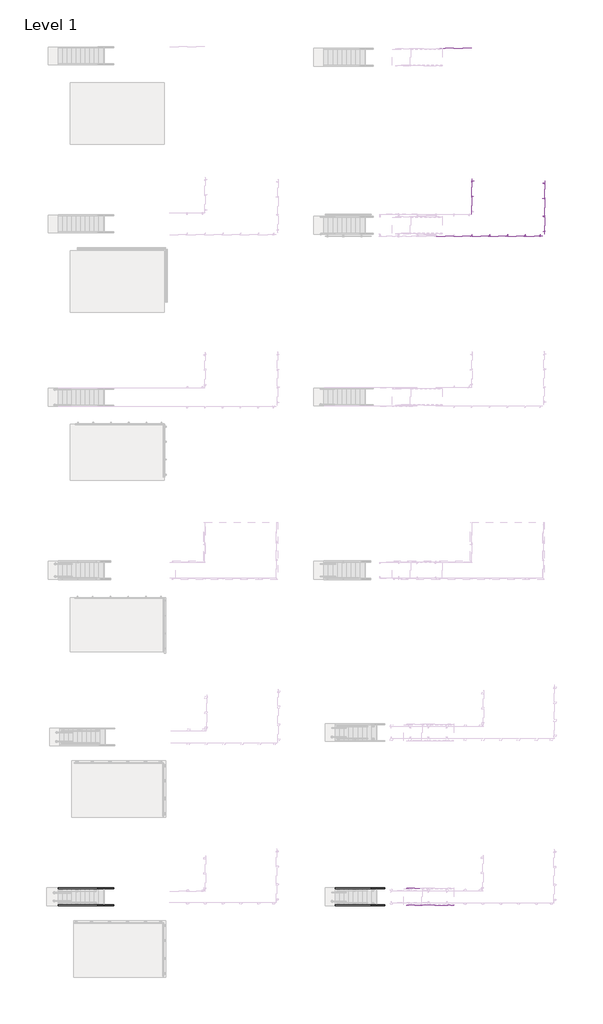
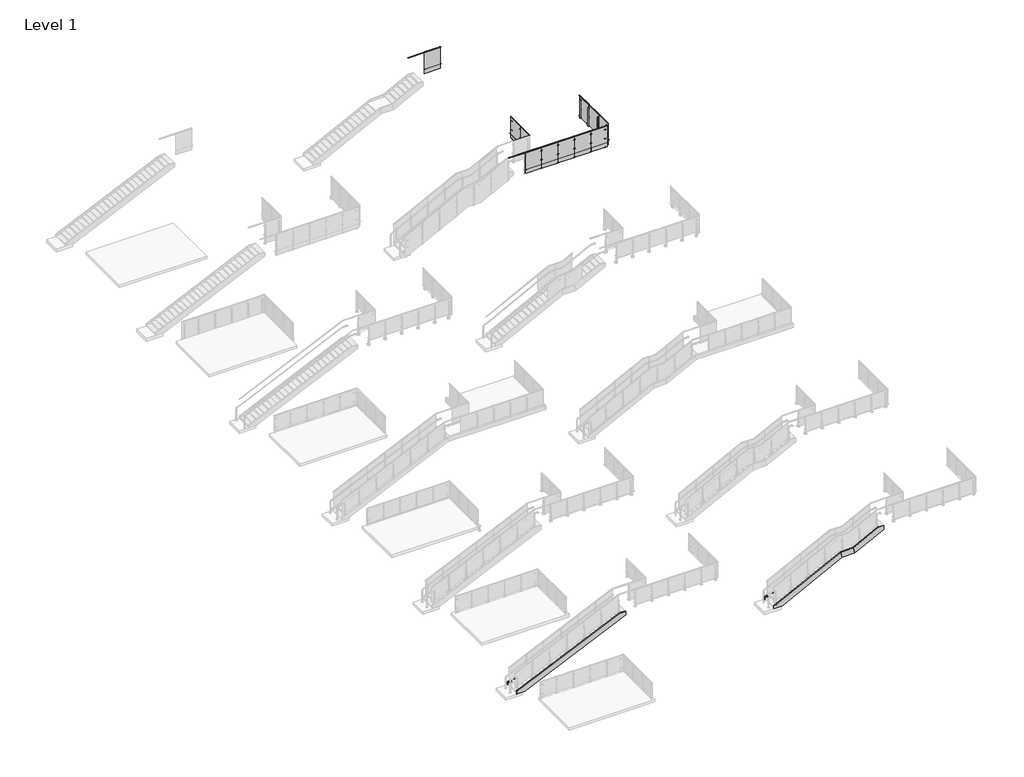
# One storey, part 36 of 37: 7 members, 4 proxies, 4 railings.
"""IFC4 building model written with IfcOpenShell, lengths in millimetres."""

from ifc_helpers import new_model, si_unit, point, frame, frame_2d, origin, place, context, project, spatial, polyline, circle_curve, trimmed, segment, composite_curve, outline, extrude, faceted_brep, transform, mapped, element, save
from components import baluster_end_post_viva_solo_top_mount_5ac118a2, baluster_end_post_viva_solo_top_mount_22cecde8

model = new_model("IFC4")

# Units and contexts
model_context = context("Model", 3, world=origin())
ifc_project = project(units=[si_unit("LENGTHUNIT", "METRE", prefix="MILLI")], contexts=[model_context])

# Site, building, storey
site = spatial("IfcSite", under=ifc_project)
building = spatial("IfcBuilding", under=site)
storey = spatial("IfcBuildingStorey", under=building, Name="Level 1", Elevation=0.0)

# Proxies
placement = place(None, origin())
baluster_end_post_viva_solo_top_mount_shape = baluster_end_post_viva_solo_top_mount_5ac118a2(model_context)
element("IfcBuildingElementProxy", 1, Name="Baluster-End-Post-VIVA-SOLO-Top Mount : ANCHORED TO CONCRETE_FASCIA A1 MOUNT FOLD_STRAIGHT", ObjectType="Baluster-End-Post-VIVA-SOLO-Top Mount : ANCHORED TO CONCRETE_FASCIA A1 MOUNT FOLD_STRAIGHT", at=placement, inside=storey, context=model_context, shape_type="MappedRepresentation", body=[
    mapped(baluster_end_post_viva_solo_top_mount_shape, transform((13879.6346922, 32455.5933835, 3047.492), x_axis=(-1.0, 0.0, 0.0), y_axis=(0.0, -1.0, 0.0), z_axis=(0.0, 0.0, 1.0))),
])
element("IfcBuildingElementProxy", 2, Name="Baluster-End-Post-VIVA-SOLO-Top Mount : ANCHORED TO CONCRETE_FASCIA A1 MOUNT FOLD_STRAIGHT", ObjectType="Baluster-End-Post-VIVA-SOLO-Top Mount : ANCHORED TO CONCRETE_FASCIA A1 MOUNT FOLD_STRAIGHT", at=placement, inside=storey, context=model_context, shape_type="MappedRepresentation", body=[
    mapped(baluster_end_post_viva_solo_top_mount_shape, transform((14047.6429922, 35676.3177537, 3047.492), x_axis=(0.0, -1.0, 0.0), y_axis=(1.0, 0.0, 0.0), z_axis=(0.0, 0.0, 1.0))),
])
baluster_end_post_viva_solo_top_mount_2_shape = baluster_end_post_viva_solo_top_mount_22cecde8(model_context)
element("IfcBuildingElementProxy", 3, Name="Baluster-End-Post-VIVA-SOLO-Top Mount : ANCHORED TO CONCRETE_FASCIA A1 MOUNT FOLD_STRAIGHT", ObjectType="Baluster-End-Post-VIVA-SOLO-Top Mount : ANCHORED TO CONCRETE_FASCIA A1 MOUNT FOLD_STRAIGHT", at=placement, inside=storey, context=model_context, shape_type="MappedRepresentation", body=[
    mapped(baluster_end_post_viva_solo_top_mount_2_shape, transform((9766.8486767, 35804.1570581, 3047.492), x_axis=(0.0, 1.0, 0.0), y_axis=(-1.0, 0.0, 0.0), z_axis=(0.0, 0.0, 1.0))),
])
element("IfcBuildingElementProxy", 4, Name="Baluster-End-Post-VIVA-SOLO-Top Mount : ANCHORED TO CONCRETE_FASCIA A1 MOUNT FOLD_STRAIGHT", ObjectType="Baluster-End-Post-VIVA-SOLO-Top Mount : ANCHORED TO CONCRETE_FASCIA A1 MOUNT FOLD_STRAIGHT", at=placement, inside=storey, context=model_context, shape_type="MappedRepresentation", body=[
    mapped(baluster_end_post_viva_solo_top_mount_2_shape, transform((14047.6429922, 32628.3177537, 3047.492), x_axis=(0.0, -1.0, 0.0), y_axis=(1.0, 0.0, 0.0), z_axis=(0.0, 0.0, 1.0))),
])

# Members
element("IfcMember", 5, ObjectType="Stringer - Paint - 2\" Width", at=placement, inside=storey, context=model_context, shape_type="SweptSolid", body=[
    extrude(outline(polyline([(171.9353423, -13801.737319), (0.0, -13801.737319), (0.0, -13290.0940239), (2815.3467396, -7098.677319), (3048.0, -7098.677319), (3048.0, -7476.7917927), (171.9353423, -13801.737319)])), frame((0.0, -4784.1653686, 0.0), z_axis=(0.0, 1.0, 0.0), x_axis=(0.0, 0.0, 1.0)), (0.0, 0.0, 1.0), 50.8),
])
element("IfcMember", 6, ObjectType="Stringer - Paint - 2\" Width", at=placement, inside=storey, context=model_context, shape_type="SweptSolid", body=[
    extrude(outline(polyline([(171.9353423, -13801.737319), (0.0, -13801.737319), (0.0, -13290.0940239), (2815.3467396, -7098.677319), (3048.0, -7098.677319), (3048.0, -7476.7917927), (171.9353423, -13801.737319)])), frame((0.0, -5749.3653686, 0.0), z_axis=(0.0, 1.0, 0.0), x_axis=(0.0, 0.0, 1.0)), (0.0, 0.0, 1.0), 50.8),
])
element("IfcMember", 7, ObjectType="Stringer - Paint - 2\" Width", at=placement, inside=storey, context=model_context, shape_type="SweptSolid", body=[
    extrude(outline(polyline([(175.2989155, 2021.7373344), (0.0, 2021.7373344), (0.0, 2489.2459285), (1891.7478261, 6205.7421785), (2260.0478261, 6117.4002983), (175.2989155, 2021.7373344)])), frame((0.0, -4784.1653686, 0.0), z_axis=(0.0, 1.0, 0.0), x_axis=(0.0, 0.0, 1.0)), (0.0, 0.0, 1.0), 50.8),
])
element("IfcMember", 8, ObjectType="Stringer - Paint - 2\" Width", at=placement, inside=storey, context=model_context, shape_type="SweptSolid", body=[
    extrude(outline(polyline([(175.2989155, 2021.7373344), (0.0, 2021.7373344), (0.0, 2489.2459285), (1891.7478261, 6205.7421785), (2260.0478261, 6117.4002983), (175.2989155, 2021.7373344)])), frame((0.0, -5749.3653686, 0.0), z_axis=(0.0, 1.0, 0.0), x_axis=(0.0, 0.0, 1.0)), (0.0, 0.0, 1.0), 50.8),
])
element("IfcMember", 9, ObjectType="Stringer - Paint - 2\" Width", at=placement, inside=storey, context=model_context, shape_type="SweptSolid", body=[
    extrude(outline(polyline([(2260.0478261, 6898.4502983), (1891.7478261, 6986.7921785), (2810.0316806, 8790.8373344), (3048.0, 8790.8373344), (3048.0, 8446.4480067), (2260.0478261, 6898.4502983)])), frame((0.0, -5749.3653686, 0.0), z_axis=(0.0, 1.0, 0.0), x_axis=(0.0, 0.0, 1.0)), (0.0, 0.0, 1.0), 50.8),
])
element("IfcMember", 10, ObjectType="Stringer - Paint - 2\" Width", at=placement, inside=storey, context=model_context, shape_type="SweptSolid", body=[
    extrude(outline(polyline([(1891.7478261, 6986.7921785), (2260.0478261, 6898.4502983), (2260.0478261, 6117.4002983), (1891.7478261, 6205.7421785), (1891.7478261, 6986.7921785)])), frame((0.0, -4784.1653686, 0.0), z_axis=(0.0, 1.0, 0.0), x_axis=(0.0, 0.0, 1.0)), (0.0, 0.0, 1.0), 50.8),
])
element("IfcMember", 11, ObjectType="Stringer - Paint - 2\" Width", at=placement, inside=storey, context=model_context, shape_type="SweptSolid", body=[
    extrude(outline(polyline([(2260.0478261, 6117.4002983), (1891.7478261, 6205.7421785), (1891.7478261, 6986.7921785), (2260.0478261, 6898.4502983), (2260.0478261, 6117.4002983)])), frame((0.0, -5749.3653686, 0.0), z_axis=(0.0, 1.0, 0.0), x_axis=(0.0, 0.0, 1.0)), (0.0, 0.0, 1.0), 50.8),
])

# Railings
element("IfcRailing", 12, ObjectType="VIVA-SOLO-Glass-Fascia Mount-Straight-A1", at=placement, inside=storey, context=model_context, shape_type="SolidModel", body=[
    extrude(outline(composite_curve([segment(trimmed(circle_curve(frame_2d((32455.5933835, 3047.746)), 0.254), [point((32455.3393835, 3047.746))], [point((32455.8473835, 3047.746))], False, "CARTESIAN"), True, "CONTINUOUS"), segment(trimmed(circle_curve(frame_2d((32455.5933835, 3047.746)), 0.254), [point((32455.8473835, 3047.746))], [point((32455.3393835, 3047.746))], False, "CARTESIAN"), True, "CONTINUOUS")], self_intersect=False)), frame((8799.6346922, 0.0, 0.0), z_axis=(1.0, 0.0, 0.0), x_axis=(0.0, 1.0, 0.0)), (0.0, 0.0, 1.0), 5080.0),
    extrude(outline(composite_curve([segment(trimmed(circle_curve(frame_2d((32455.5933835, 3047.746)), 0.254), [point((32455.3393835, 3047.746))], [point((32455.8473835, 3047.746))], False, "CARTESIAN"), True, "CONTINUOUS"), segment(trimmed(circle_curve(frame_2d((32455.5933835, 3047.746)), 0.254), [point((32455.8473835, 3047.746))], [point((32455.3393835, 3047.746))], False, "CARTESIAN"), True, "CONTINUOUS")], self_intersect=False)), frame((8799.6346922, 0.0, 0.0), z_axis=(1.0, 0.0, 0.0), x_axis=(0.0, 1.0, 0.0)), (0.0, 0.0, 1.0), 5080.0),
    faceted_brep([(13879.6346922, 32501.3133835, 4127.5), (13879.6346922, 32501.3133835, 4102.1), (13879.6346922, 32506.0758835, 4102.1), (13879.6346922, 32506.0758835, 4122.7375), (13879.6346922, 32518.7758835, 4122.7375), (13879.6346922, 32518.7758835, 4102.1), (13879.6346922, 32523.5383835, 4102.1), (13879.6346922, 32523.5383835, 4127.5), (8799.6346922, 32523.5383835, 4127.5), (8799.6346922, 32501.3133835, 4127.5), (8799.6346922, 32523.5383835, 4102.1), (8799.6346922, 32518.7758835, 4102.1), (8799.6346922, 32518.7758835, 4122.7375), (8799.6346922, 32506.0758835, 4122.7375), (8799.6346922, 32506.0758835, 4102.1), (8799.6346922, 32501.3133835, 4102.1), (7801.6543748, 32501.3133835, 4127.5), (7801.6543748, 32523.5383835, 4127.5), (7801.6543748, 32523.5383835, 4102.1), (7801.6543748, 32518.7758835, 4102.1), (7801.6543748, 32518.7758835, 4122.7375), (7801.6543748, 32506.0758835, 4122.7375), (7801.6543748, 32506.0758835, 4102.1), (7801.6543748, 32501.3133835, 4102.1)], [[[0, 1, 2, 3, 4, 5, 6, 7]], [[8, 9, 0, 7]], [[10, 8, 7, 6]], [[11, 10, 6, 5]], [[12, 11, 5, 4]], [[13, 12, 4, 3]], [[14, 13, 3, 2]], [[15, 14, 2, 1]], [[9, 15, 1, 0]], [[16, 17, 18, 19, 20, 21, 22, 23]], [[17, 16, 9, 8]], [[18, 17, 8, 10]], [[19, 18, 10, 11]], [[20, 19, 11, 12]], [[21, 20, 12, 13]], [[22, 21, 13, 14]], [[23, 22, 14, 15]], [[16, 23, 15, 9]]]),
    extrude(outline(polyline([(12876.7177388, 32506.1393835), (12876.7177388, 32518.8393835), (13867.3177388, 32518.8393835), (13867.3177388, 32506.1393835), (12876.7177388, 32506.1393835)])), frame((0.0, 0.0, 2743.2), z_axis=(0.0, 0.0, 1.0), x_axis=(1.0, 0.0, 0.0)), (0.0, 0.0, 1.0), 1379.474),
    extrude(outline(polyline([(12883.4784422, 32528.3643835), (12869.9846922, 32528.3643835), (12869.9846922, 32628.3768835), (12883.4784422, 32628.3768835), (12883.4784422, 32528.3643835)])), frame((0.0, 0.0, 2832.1), z_axis=(0.0, 0.0, 1.0), x_axis=(1.0, 0.0, 0.0)), (0.0, 0.0, 1.0), 127.0),
    extrude(outline(polyline([(12869.9846922, 32528.3643835), (12857.2846922, 32528.3643835), (12857.2846922, 32591.8643835), (12869.9846922, 32591.8643835), (12869.9846922, 32528.3643835)])), frame((0.0, 0.0, 2737.1764046), z_axis=(0.0, 0.0, 1.0), x_axis=(1.0, 0.0, 0.0)), (0.0, 0.0, 1.0), 1204.9740667),
    extrude(outline(polyline([(12819.1846922, 32518.8393835), (12819.1846922, 32528.3643835), (12908.0846922, 32528.3643835), (12908.0846922, 32518.8393835), (12819.1846922, 32518.8393835)])), frame((0.0, 0.0, 2737.1449689), z_axis=(0.0, 0.0, 1.0), x_axis=(1.0, 0.0, 0.0)), (0.0, 0.0, 1.0), 31.75),
    extrude(outline(polyline([(12819.1846922, 32496.6143835), (12819.1846922, 32506.1393835), (12908.0846922, 32506.1393835), (12908.0846922, 32496.6143835), (12819.1846922, 32496.6143835)])), frame((0.0, 0.0, 2737.1449689), z_axis=(0.0, 0.0, 1.0), x_axis=(1.0, 0.0, 0.0)), (0.0, 0.0, 1.0), 31.75),
    extrude(outline(polyline([(12819.1846922, 32518.8393835), (12819.1846922, 32528.3643835), (12908.0846922, 32528.3643835), (12908.0846922, 32518.8393835), (12819.1846922, 32518.8393835)])), frame((0.0, 0.0, 3299.9910694), z_axis=(0.0, 0.0, 1.0), x_axis=(1.0, 0.0, 0.0)), (0.0, 0.0, 1.0), 31.75),
    extrude(outline(polyline([(12819.1846922, 32518.8393835), (12819.1846922, 32528.3643835), (12908.0846922, 32528.3643835), (12908.0846922, 32518.8393835), (12819.1846922, 32518.8393835)])), frame((0.0, 0.0, 3886.2992187), z_axis=(0.0, 0.0, 1.0), x_axis=(1.0, 0.0, 0.0)), (0.0, 0.0, 1.0), 31.75),
    extrude(outline(polyline([(12819.1846922, 32496.6143835), (12819.1846922, 32506.1393835), (12908.0846922, 32506.1393835), (12908.0846922, 32496.6143835), (12819.1846922, 32496.6143835)])), frame((0.0, 0.0, 3299.9910694), z_axis=(0.0, 0.0, 1.0), x_axis=(1.0, 0.0, 0.0)), (0.0, 0.0, 1.0), 31.75),
    extrude(outline(polyline([(12819.1846922, 32496.6143835), (12819.1846922, 32506.1393835), (12908.0846922, 32506.1393835), (12908.0846922, 32496.6143835), (12819.1846922, 32496.6143835)])), frame((0.0, 0.0, 3886.2992187), z_axis=(0.0, 0.0, 1.0), x_axis=(1.0, 0.0, 0.0)), (0.0, 0.0, 1.0), 31.75),
    extrude(outline(composite_curve([segment(trimmed(circle_curve(frame_2d((2753.4170197, 12863.6257311)), 6.35), [point((2753.4170197, 12869.9757311))], [point((2753.4170197, 12857.2757311))], False, "CARTESIAN"), True, "CONTINUOUS"), segment(trimmed(circle_curve(frame_2d((2753.4170197, 12863.6257311)), 6.35), [point((2753.4170197, 12857.2757311))], [point((2753.4170197, 12869.9757311))], False, "CARTESIAN"), True, "CONTINUOUS")], self_intersect=False)), frame((0.0, 32506.1393835, 0.0), z_axis=(0.0, 1.0, 0.0), x_axis=(0.0, 0.0, 1.0)), (0.0, 0.0, 1.0), 12.7),
    extrude(outline(composite_curve([segment(trimmed(circle_curve(frame_2d((3315.8660694, 12863.6346922)), 6.35), [point((3315.8660694, 12869.9846922))], [point((3315.8660694, 12857.2846922))], False, "CARTESIAN"), True, "CONTINUOUS"), segment(trimmed(circle_curve(frame_2d((3315.8660694, 12863.6346922)), 6.35), [point((3315.8660694, 12857.2846922))], [point((3315.8660694, 12869.9846922))], False, "CARTESIAN"), True, "CONTINUOUS")], self_intersect=False)), frame((0.0, 32506.1393835, 0.0), z_axis=(0.0, 1.0, 0.0), x_axis=(0.0, 0.0, 1.0)), (0.0, 0.0, 1.0), 12.7),
    extrude(outline(composite_curve([segment(trimmed(circle_curve(frame_2d((3902.1742187, 12863.6346922)), 6.35), [point((3902.1742187, 12869.9846922))], [point((3902.1742187, 12857.2846922))], False, "CARTESIAN"), True, "CONTINUOUS"), segment(trimmed(circle_curve(frame_2d((3902.1742187, 12863.6346922)), 6.35), [point((3902.1742187, 12857.2846922))], [point((3902.1742187, 12869.9846922))], False, "CARTESIAN"), True, "CONTINUOUS")], self_intersect=False)), frame((0.0, 32506.1393835, 0.0), z_axis=(0.0, 1.0, 0.0), x_axis=(0.0, 0.0, 1.0)), (0.0, 0.0, 1.0), 12.7),
    extrude(outline(polyline([(11860.7177388, 32506.1393835), (11860.7177388, 32518.8393835), (12851.3177388, 32518.8393835), (12851.3177388, 32506.1393835), (11860.7177388, 32506.1393835)])), frame((0.0, 0.0, 2743.2), z_axis=(0.0, 0.0, 1.0), x_axis=(1.0, 0.0, 0.0)), (0.0, 0.0, 1.0), 1379.474),
    extrude(outline(polyline([(11867.4784422, 32528.3643835), (11853.9846922, 32528.3643835), (11853.9846922, 32628.3768835), (11867.4784422, 32628.3768835), (11867.4784422, 32528.3643835)])), frame((0.0, 0.0, 2832.1), z_axis=(0.0, 0.0, 1.0), x_axis=(1.0, 0.0, 0.0)), (0.0, 0.0, 1.0), 127.0),
    extrude(outline(polyline([(11853.9846922, 32528.3643835), (11841.2846922, 32528.3643835), (11841.2846922, 32591.8643835), (11853.9846922, 32591.8643835), (11853.9846922, 32528.3643835)])), frame((0.0, 0.0, 2737.1764046), z_axis=(0.0, 0.0, 1.0), x_axis=(1.0, 0.0, 0.0)), (0.0, 0.0, 1.0), 1204.9740667),
    extrude(outline(polyline([(11803.1846922, 32518.8393835), (11803.1846922, 32528.3643835), (11892.0846922, 32528.3643835), (11892.0846922, 32518.8393835), (11803.1846922, 32518.8393835)])), frame((0.0, 0.0, 2737.1449689), z_axis=(0.0, 0.0, 1.0), x_axis=(1.0, 0.0, 0.0)), (0.0, 0.0, 1.0), 31.75),
    extrude(outline(polyline([(11803.1846922, 32496.6143835), (11803.1846922, 32506.1393835), (11892.0846922, 32506.1393835), (11892.0846922, 32496.6143835), (11803.1846922, 32496.6143835)])), frame((0.0, 0.0, 2737.1449689), z_axis=(0.0, 0.0, 1.0), x_axis=(1.0, 0.0, 0.0)), (0.0, 0.0, 1.0), 31.75),
    extrude(outline(polyline([(11803.1846922, 32518.8393835), (11803.1846922, 32528.3643835), (11892.0846922, 32528.3643835), (11892.0846922, 32518.8393835), (11803.1846922, 32518.8393835)])), frame((0.0, 0.0, 3299.9910694), z_axis=(0.0, 0.0, 1.0), x_axis=(1.0, 0.0, 0.0)), (0.0, 0.0, 1.0), 31.75),
    extrude(outline(polyline([(11803.1846922, 32518.8393835), (11803.1846922, 32528.3643835), (11892.0846922, 32528.3643835), (11892.0846922, 32518.8393835), (11803.1846922, 32518.8393835)])), frame((0.0, 0.0, 3886.2992187), z_axis=(0.0, 0.0, 1.0), x_axis=(1.0, 0.0, 0.0)), (0.0, 0.0, 1.0), 31.75),
    extrude(outline(polyline([(11803.1846922, 32496.6143835), (11803.1846922, 32506.1393835), (11892.0846922, 32506.1393835), (11892.0846922, 32496.6143835), (11803.1846922, 32496.6143835)])), frame((0.0, 0.0, 3299.9910694), z_axis=(0.0, 0.0, 1.0), x_axis=(1.0, 0.0, 0.0)), (0.0, 0.0, 1.0), 31.75),
    extrude(outline(polyline([(11803.1846922, 32496.6143835), (11803.1846922, 32506.1393835), (11892.0846922, 32506.1393835), (11892.0846922, 32496.6143835), (11803.1846922, 32496.6143835)])), frame((0.0, 0.0, 3886.2992187), z_axis=(0.0, 0.0, 1.0), x_axis=(1.0, 0.0, 0.0)), (0.0, 0.0, 1.0), 31.75),
    extrude(outline(composite_curve([segment(trimmed(circle_curve(frame_2d((2753.4170197, 11847.6257311)), 6.35), [point((2753.4170197, 11853.9757311))], [point((2753.4170197, 11841.2757311))], False, "CARTESIAN"), True, "CONTINUOUS"), segment(trimmed(circle_curve(frame_2d((2753.4170197, 11847.6257311)), 6.35), [point((2753.4170197, 11841.2757311))], [point((2753.4170197, 11853.9757311))], False, "CARTESIAN"), True, "CONTINUOUS")], self_intersect=False)), frame((0.0, 32506.1393835, 0.0), z_axis=(0.0, 1.0, 0.0), x_axis=(0.0, 0.0, 1.0)), (0.0, 0.0, 1.0), 12.7),
    extrude(outline(composite_curve([segment(trimmed(circle_curve(frame_2d((3315.8660694, 11847.6346922)), 6.35), [point((3315.8660694, 11853.9846922))], [point((3315.8660694, 11841.2846922))], False, "CARTESIAN"), True, "CONTINUOUS"), segment(trimmed(circle_curve(frame_2d((3315.8660694, 11847.6346922)), 6.35), [point((3315.8660694, 11841.2846922))], [point((3315.8660694, 11853.9846922))], False, "CARTESIAN"), True, "CONTINUOUS")], self_intersect=False)), frame((0.0, 32506.1393835, 0.0), z_axis=(0.0, 1.0, 0.0), x_axis=(0.0, 0.0, 1.0)), (0.0, 0.0, 1.0), 12.7),
    extrude(outline(composite_curve([segment(trimmed(circle_curve(frame_2d((3902.1742187, 11847.6346922)), 6.35), [point((3902.1742187, 11853.9846922))], [point((3902.1742187, 11841.2846922))], False, "CARTESIAN"), True, "CONTINUOUS"), segment(trimmed(circle_curve(frame_2d((3902.1742187, 11847.6346922)), 6.35), [point((3902.1742187, 11841.2846922))], [point((3902.1742187, 11853.9846922))], False, "CARTESIAN"), True, "CONTINUOUS")], self_intersect=False)), frame((0.0, 32506.1393835, 0.0), z_axis=(0.0, 1.0, 0.0), x_axis=(0.0, 0.0, 1.0)), (0.0, 0.0, 1.0), 12.7),
    extrude(outline(polyline([(10844.7177388, 32506.1393835), (10844.7177388, 32518.8393835), (11835.3177388, 32518.8393835), (11835.3177388, 32506.1393835), (10844.7177388, 32506.1393835)])), frame((0.0, 0.0, 2743.2), z_axis=(0.0, 0.0, 1.0), x_axis=(1.0, 0.0, 0.0)), (0.0, 0.0, 1.0), 1379.474),
    extrude(outline(polyline([(10851.4784422, 32528.3643835), (10837.9846922, 32528.3643835), (10837.9846922, 32628.3768835), (10851.4784422, 32628.3768835), (10851.4784422, 32528.3643835)])), frame((0.0, 0.0, 2832.1), z_axis=(0.0, 0.0, 1.0), x_axis=(1.0, 0.0, 0.0)), (0.0, 0.0, 1.0), 127.0),
    extrude(outline(polyline([(10837.9846922, 32528.3643835), (10825.2846922, 32528.3643835), (10825.2846922, 32591.8643835), (10837.9846922, 32591.8643835), (10837.9846922, 32528.3643835)])), frame((0.0, 0.0, 2737.1764046), z_axis=(0.0, 0.0, 1.0), x_axis=(1.0, 0.0, 0.0)), (0.0, 0.0, 1.0), 1204.9740667),
    extrude(outline(polyline([(10787.1846922, 32518.8393835), (10787.1846922, 32528.3643835), (10876.0846922, 32528.3643835), (10876.0846922, 32518.8393835), (10787.1846922, 32518.8393835)])), frame((0.0, 0.0, 2737.1449689), z_axis=(0.0, 0.0, 1.0), x_axis=(1.0, 0.0, 0.0)), (0.0, 0.0, 1.0), 31.75),
    extrude(outline(polyline([(10787.1846922, 32496.6143835), (10787.1846922, 32506.1393835), (10876.0846922, 32506.1393835), (10876.0846922, 32496.6143835), (10787.1846922, 32496.6143835)])), frame((0.0, 0.0, 2737.1449689), z_axis=(0.0, 0.0, 1.0), x_axis=(1.0, 0.0, 0.0)), (0.0, 0.0, 1.0), 31.75),
    extrude(outline(polyline([(10787.1846922, 32518.8393835), (10787.1846922, 32528.3643835), (10876.0846922, 32528.3643835), (10876.0846922, 32518.8393835), (10787.1846922, 32518.8393835)])), frame((0.0, 0.0, 3299.9910694), z_axis=(0.0, 0.0, 1.0), x_axis=(1.0, 0.0, 0.0)), (0.0, 0.0, 1.0), 31.75),
    extrude(outline(polyline([(10787.1846922, 32518.8393835), (10787.1846922, 32528.3643835), (10876.0846922, 32528.3643835), (10876.0846922, 32518.8393835), (10787.1846922, 32518.8393835)])), frame((0.0, 0.0, 3886.2992187), z_axis=(0.0, 0.0, 1.0), x_axis=(1.0, 0.0, 0.0)), (0.0, 0.0, 1.0), 31.75),
    extrude(outline(polyline([(10787.1846922, 32496.6143835), (10787.1846922, 32506.1393835), (10876.0846922, 32506.1393835), (10876.0846922, 32496.6143835), (10787.1846922, 32496.6143835)])), frame((0.0, 0.0, 3299.9910694), z_axis=(0.0, 0.0, 1.0), x_axis=(1.0, 0.0, 0.0)), (0.0, 0.0, 1.0), 31.75),
    extrude(outline(polyline([(10787.1846922, 32496.6143835), (10787.1846922, 32506.1393835), (10876.0846922, 32506.1393835), (10876.0846922, 32496.6143835), (10787.1846922, 32496.6143835)])), frame((0.0, 0.0, 3886.2992187), z_axis=(0.0, 0.0, 1.0), x_axis=(1.0, 0.0, 0.0)), (0.0, 0.0, 1.0), 31.75),
    extrude(outline(composite_curve([segment(trimmed(circle_curve(frame_2d((2753.4170197, 10831.6257311)), 6.35), [point((2753.4170197, 10837.9757311))], [point((2753.4170197, 10825.2757311))], False, "CARTESIAN"), True, "CONTINUOUS"), segment(trimmed(circle_curve(frame_2d((2753.4170197, 10831.6257311)), 6.35), [point((2753.4170197, 10825.2757311))], [point((2753.4170197, 10837.9757311))], False, "CARTESIAN"), True, "CONTINUOUS")], self_intersect=False)), frame((0.0, 32506.1393835, 0.0), z_axis=(0.0, 1.0, 0.0), x_axis=(0.0, 0.0, 1.0)), (0.0, 0.0, 1.0), 12.7),
    extrude(outline(composite_curve([segment(trimmed(circle_curve(frame_2d((3315.8660694, 10831.6346922)), 6.35), [point((3315.8660694, 10837.9846922))], [point((3315.8660694, 10825.2846922))], False, "CARTESIAN"), True, "CONTINUOUS"), segment(trimmed(circle_curve(frame_2d((3315.8660694, 10831.6346922)), 6.35), [point((3315.8660694, 10825.2846922))], [point((3315.8660694, 10837.9846922))], False, "CARTESIAN"), True, "CONTINUOUS")], self_intersect=False)), frame((0.0, 32506.1393835, 0.0), z_axis=(0.0, 1.0, 0.0), x_axis=(0.0, 0.0, 1.0)), (0.0, 0.0, 1.0), 12.7),
    extrude(outline(composite_curve([segment(trimmed(circle_curve(frame_2d((3902.1742187, 10831.6346922)), 6.35), [point((3902.1742187, 10837.9846922))], [point((3902.1742187, 10825.2846922))], False, "CARTESIAN"), True, "CONTINUOUS"), segment(trimmed(circle_curve(frame_2d((3902.1742187, 10831.6346922)), 6.35), [point((3902.1742187, 10825.2846922))], [point((3902.1742187, 10837.9846922))], False, "CARTESIAN"), True, "CONTINUOUS")], self_intersect=False)), frame((0.0, 32506.1393835, 0.0), z_axis=(0.0, 1.0, 0.0), x_axis=(0.0, 0.0, 1.0)), (0.0, 0.0, 1.0), 12.7),
    extrude(outline(polyline([(9828.7177388, 32506.1393835), (9828.7177388, 32518.8393835), (10819.3177388, 32518.8393835), (10819.3177388, 32506.1393835), (9828.7177388, 32506.1393835)])), frame((0.0, 0.0, 2743.2), z_axis=(0.0, 0.0, 1.0), x_axis=(1.0, 0.0, 0.0)), (0.0, 0.0, 1.0), 1379.474),
    extrude(outline(polyline([(9835.4784422, 32528.3643835), (9821.9846922, 32528.3643835), (9821.9846922, 32628.3768835), (9835.4784422, 32628.3768835), (9835.4784422, 32528.3643835)])), frame((0.0, 0.0, 2832.1), z_axis=(0.0, 0.0, 1.0), x_axis=(1.0, 0.0, 0.0)), (0.0, 0.0, 1.0), 127.0),
    extrude(outline(polyline([(9821.9846922, 32528.3643835), (9809.2846922, 32528.3643835), (9809.2846922, 32591.8643835), (9821.9846922, 32591.8643835), (9821.9846922, 32528.3643835)])), frame((0.0, 0.0, 2737.1764046), z_axis=(0.0, 0.0, 1.0), x_axis=(1.0, 0.0, 0.0)), (0.0, 0.0, 1.0), 1204.9740667),
    extrude(outline(polyline([(9771.1846922, 32518.8393835), (9771.1846922, 32528.3643835), (9860.0846922, 32528.3643835), (9860.0846922, 32518.8393835), (9771.1846922, 32518.8393835)])), frame((0.0, 0.0, 2737.1449689), z_axis=(0.0, 0.0, 1.0), x_axis=(1.0, 0.0, 0.0)), (0.0, 0.0, 1.0), 31.75),
    extrude(outline(polyline([(9771.1846922, 32496.6143835), (9771.1846922, 32506.1393835), (9860.0846922, 32506.1393835), (9860.0846922, 32496.6143835), (9771.1846922, 32496.6143835)])), frame((0.0, 0.0, 2737.1449689), z_axis=(0.0, 0.0, 1.0), x_axis=(1.0, 0.0, 0.0)), (0.0, 0.0, 1.0), 31.75),
    extrude(outline(polyline([(9771.1846922, 32518.8393835), (9771.1846922, 32528.3643835), (9860.0846922, 32528.3643835), (9860.0846922, 32518.8393835), (9771.1846922, 32518.8393835)])), frame((0.0, 0.0, 3299.9910694), z_axis=(0.0, 0.0, 1.0), x_axis=(1.0, 0.0, 0.0)), (0.0, 0.0, 1.0), 31.75),
    extrude(outline(polyline([(9771.1846922, 32518.8393835), (9771.1846922, 32528.3643835), (9860.0846922, 32528.3643835), (9860.0846922, 32518.8393835), (9771.1846922, 32518.8393835)])), frame((0.0, 0.0, 3886.2992187), z_axis=(0.0, 0.0, 1.0), x_axis=(1.0, 0.0, 0.0)), (0.0, 0.0, 1.0), 31.75),
    extrude(outline(polyline([(9771.1846922, 32496.6143835), (9771.1846922, 32506.1393835), (9860.0846922, 32506.1393835), (9860.0846922, 32496.6143835), (9771.1846922, 32496.6143835)])), frame((0.0, 0.0, 3299.9910694), z_axis=(0.0, 0.0, 1.0), x_axis=(1.0, 0.0, 0.0)), (0.0, 0.0, 1.0), 31.75),
    extrude(outline(polyline([(9771.1846922, 32496.6143835), (9771.1846922, 32506.1393835), (9860.0846922, 32506.1393835), (9860.0846922, 32496.6143835), (9771.1846922, 32496.6143835)])), frame((0.0, 0.0, 3886.2992187), z_axis=(0.0, 0.0, 1.0), x_axis=(1.0, 0.0, 0.0)), (0.0, 0.0, 1.0), 31.75),
    extrude(outline(composite_curve([segment(trimmed(circle_curve(frame_2d((2753.4170197, 9815.6257311)), 6.35), [point((2753.4170197, 9821.9757311))], [point((2753.4170197, 9809.2757311))], False, "CARTESIAN"), True, "CONTINUOUS"), segment(trimmed(circle_curve(frame_2d((2753.4170197, 9815.6257311)), 6.35), [point((2753.4170197, 9809.2757311))], [point((2753.4170197, 9821.9757311))], False, "CARTESIAN"), True, "CONTINUOUS")], self_intersect=False)), frame((0.0, 32506.1393835, 0.0), z_axis=(0.0, 1.0, 0.0), x_axis=(0.0, 0.0, 1.0)), (0.0, 0.0, 1.0), 12.7),
    extrude(outline(composite_curve([segment(trimmed(circle_curve(frame_2d((3315.8660694, 9815.6346922)), 6.35), [point((3315.8660694, 9821.9846922))], [point((3315.8660694, 9809.2846922))], False, "CARTESIAN"), True, "CONTINUOUS"), segment(trimmed(circle_curve(frame_2d((3315.8660694, 9815.6346922)), 6.35), [point((3315.8660694, 9809.2846922))], [point((3315.8660694, 9821.9846922))], False, "CARTESIAN"), True, "CONTINUOUS")], self_intersect=False)), frame((0.0, 32506.1393835, 0.0), z_axis=(0.0, 1.0, 0.0), x_axis=(0.0, 0.0, 1.0)), (0.0, 0.0, 1.0), 12.7),
    extrude(outline(composite_curve([segment(trimmed(circle_curve(frame_2d((3902.1742187, 9815.6346922)), 6.35), [point((3902.1742187, 9821.9846922))], [point((3902.1742187, 9809.2846922))], False, "CARTESIAN"), True, "CONTINUOUS"), segment(trimmed(circle_curve(frame_2d((3902.1742187, 9815.6346922)), 6.35), [point((3902.1742187, 9809.2846922))], [point((3902.1742187, 9821.9846922))], False, "CARTESIAN"), True, "CONTINUOUS")], self_intersect=False)), frame((0.0, 32506.1393835, 0.0), z_axis=(0.0, 1.0, 0.0), x_axis=(0.0, 0.0, 1.0)), (0.0, 0.0, 1.0), 12.7),
    extrude(outline(polyline([(8812.7177388, 32506.1393835), (8812.7177388, 32518.8393835), (9803.3177388, 32518.8393835), (9803.3177388, 32506.1393835), (8812.7177388, 32506.1393835)])), frame((0.0, 0.0, 2743.2), z_axis=(0.0, 0.0, 1.0), x_axis=(1.0, 0.0, 0.0)), (0.0, 0.0, 1.0), 1379.474),
])
element("IfcRailing", 13, ObjectType="VIVA-SOLO-Glass-Fascia Mount-Straight-A1", at=placement, inside=storey, context=model_context, shape_type="SweptSolid", body=[
    extrude(outline(composite_curve([segment(trimmed(circle_curve(frame_2d((3047.746, 9766.8486767)), 0.254), [point((3047.746, 9767.1026767))], [point((3047.746, 9766.5946767))], False, "CARTESIAN"), True, "CONTINUOUS"), segment(trimmed(circle_curve(frame_2d((3047.746, 9766.8486767)), 0.254), [point((3047.746, 9766.5946767))], [point((3047.746, 9767.1026767))], False, "CARTESIAN"), True, "CONTINUOUS")], self_intersect=False)), frame((0.0, 33772.1570581, 0.0), z_axis=(0.0, 1.0, 0.0), x_axis=(0.0, 0.0, 1.0)), (0.0, 0.0, 1.0), 2032.0),
    extrude(outline(composite_curve([segment(trimmed(circle_curve(frame_2d((3047.746, 9766.8486767)), 0.254), [point((3047.746, 9767.1026767))], [point((3047.746, 9766.5946767))], False, "CARTESIAN"), True, "CONTINUOUS"), segment(trimmed(circle_curve(frame_2d((3047.746, 9766.8486767)), 0.254), [point((3047.746, 9766.5946767))], [point((3047.746, 9767.1026767))], False, "CARTESIAN"), True, "CONTINUOUS")], self_intersect=False)), frame((0.0, 33772.1570581, 0.0), z_axis=(0.0, 1.0, 0.0), x_axis=(0.0, 0.0, 1.0)), (0.0, 0.0, 1.0), 2032.0),
    extrude(outline(polyline([(4127.5, 9834.7936767), (4127.5, 9812.5686767), (4102.1, 9812.5686767), (4102.1, 9817.3311767), (4122.7375, 9817.3311767), (4122.7375, 9830.0311767), (4102.1, 9830.0311767), (4102.1, 9834.7936767), (4127.5, 9834.7936767)])), frame((0.0, 33772.1570581, 0.0), z_axis=(0.0, 1.0, 0.0), x_axis=(0.0, 0.0, 1.0)), (0.0, 0.0, 1.0), 2032.0),
    extrude(outline(polyline([(9817.3946767, 34801.2401047), (9817.3946767, 35791.8401047), (9830.0946767, 35791.8401047), (9830.0946767, 34801.2401047), (9817.3946767, 34801.2401047)])), frame((0.0, 0.0, 2743.2), z_axis=(0.0, 0.0, 1.0), x_axis=(1.0, 0.0, 0.0)), (0.0, 0.0, 1.0), 1379.474),
    extrude(outline(polyline([(9839.6196767, 34808.0008081), (9939.6321767, 34808.0008081), (9939.6321767, 34794.5070581), (9839.6196767, 34794.5070581), (9839.6196767, 34808.0008081)])), frame((0.0, 0.0, 2832.1), z_axis=(0.0, 0.0, 1.0), x_axis=(1.0, 0.0, 0.0)), (0.0, 0.0, 1.0), 127.0),
    extrude(outline(polyline([(9839.6196767, 34794.5070581), (9903.1196767, 34794.5070581), (9903.1196767, 34781.8070581), (9839.6196767, 34781.8070581), (9839.6196767, 34794.5070581)])), frame((0.0, 0.0, 2737.1764046), z_axis=(0.0, 0.0, 1.0), x_axis=(1.0, 0.0, 0.0)), (0.0, 0.0, 1.0), 1204.9740667),
    extrude(outline(polyline([(9830.0946767, 34743.7070581), (9830.0946767, 34832.6070581), (9839.6196767, 34832.6070581), (9839.6196767, 34743.7070581), (9830.0946767, 34743.7070581)])), frame((0.0, 0.0, 2737.1449689), z_axis=(0.0, 0.0, 1.0), x_axis=(1.0, 0.0, 0.0)), (0.0, 0.0, 1.0), 31.75),
    extrude(outline(polyline([(9807.8696767, 34743.7070581), (9807.8696767, 34832.6070581), (9817.3946767, 34832.6070581), (9817.3946767, 34743.7070581), (9807.8696767, 34743.7070581)])), frame((0.0, 0.0, 2737.1449689), z_axis=(0.0, 0.0, 1.0), x_axis=(1.0, 0.0, 0.0)), (0.0, 0.0, 1.0), 31.75),
    extrude(outline(polyline([(9830.0946767, 34743.7070581), (9830.0946767, 34832.6070581), (9839.6196767, 34832.6070581), (9839.6196767, 34743.7070581), (9830.0946767, 34743.7070581)])), frame((0.0, 0.0, 3299.9910694), z_axis=(0.0, 0.0, 1.0), x_axis=(1.0, 0.0, 0.0)), (0.0, 0.0, 1.0), 31.75),
    extrude(outline(polyline([(9830.0946767, 34743.7070581), (9830.0946767, 34832.6070581), (9839.6196767, 34832.6070581), (9839.6196767, 34743.7070581), (9830.0946767, 34743.7070581)])), frame((0.0, 0.0, 3886.2992187), z_axis=(0.0, 0.0, 1.0), x_axis=(1.0, 0.0, 0.0)), (0.0, 0.0, 1.0), 31.75),
    extrude(outline(polyline([(9807.8696767, 34743.7070581), (9807.8696767, 34832.6070581), (9817.3946767, 34832.6070581), (9817.3946767, 34743.7070581), (9807.8696767, 34743.7070581)])), frame((0.0, 0.0, 3299.9910694), z_axis=(0.0, 0.0, 1.0), x_axis=(1.0, 0.0, 0.0)), (0.0, 0.0, 1.0), 31.75),
    extrude(outline(polyline([(9807.8696767, 34743.7070581), (9807.8696767, 34832.6070581), (9817.3946767, 34832.6070581), (9817.3946767, 34743.7070581), (9807.8696767, 34743.7070581)])), frame((0.0, 0.0, 3886.2992187), z_axis=(0.0, 0.0, 1.0), x_axis=(1.0, 0.0, 0.0)), (0.0, 0.0, 1.0), 31.75),
    extrude(outline(composite_curve([segment(trimmed(circle_curve(frame_2d((34788.148097, 2753.4170197)), 6.35), [point((34794.498097, 2753.4170197))], [point((34781.798097, 2753.4170197))], False, "CARTESIAN"), True, "CONTINUOUS"), segment(trimmed(circle_curve(frame_2d((34788.148097, 2753.4170197)), 6.35), [point((34781.798097, 2753.4170197))], [point((34794.498097, 2753.4170197))], False, "CARTESIAN"), True, "CONTINUOUS")], self_intersect=False)), frame((9817.3946767, 0.0, 0.0), z_axis=(1.0, 0.0, 0.0), x_axis=(0.0, 1.0, 0.0)), (0.0, 0.0, 1.0), 12.7),
    extrude(outline(composite_curve([segment(trimmed(circle_curve(frame_2d((34788.1570581, 3315.8660694)), 6.35), [point((34794.5070581, 3315.8660694))], [point((34781.8070581, 3315.8660694))], False, "CARTESIAN"), True, "CONTINUOUS"), segment(trimmed(circle_curve(frame_2d((34788.1570581, 3315.8660694)), 6.35), [point((34781.8070581, 3315.8660694))], [point((34794.5070581, 3315.8660694))], False, "CARTESIAN"), True, "CONTINUOUS")], self_intersect=False)), frame((9817.3946767, 0.0, 0.0), z_axis=(1.0, 0.0, 0.0), x_axis=(0.0, 1.0, 0.0)), (0.0, 0.0, 1.0), 12.7),
    extrude(outline(composite_curve([segment(trimmed(circle_curve(frame_2d((34788.1570581, 3902.1742187)), 6.35), [point((34794.5070581, 3902.1742187))], [point((34781.8070581, 3902.1742187))], False, "CARTESIAN"), True, "CONTINUOUS"), segment(trimmed(circle_curve(frame_2d((34788.1570581, 3902.1742187)), 6.35), [point((34781.8070581, 3902.1742187))], [point((34794.5070581, 3902.1742187))], False, "CARTESIAN"), True, "CONTINUOUS")], self_intersect=False)), frame((9817.3946767, 0.0, 0.0), z_axis=(1.0, 0.0, 0.0), x_axis=(0.0, 1.0, 0.0)), (0.0, 0.0, 1.0), 12.7),
    extrude(outline(polyline([(9817.3946767, 33785.2401047), (9817.3946767, 34775.8401047), (9830.0946767, 34775.8401047), (9830.0946767, 33785.2401047), (9817.3946767, 33785.2401047)])), frame((0.0, 0.0, 2743.2), z_axis=(0.0, 0.0, 1.0), x_axis=(1.0, 0.0, 0.0)), (0.0, 0.0, 1.0), 1379.474),
])
element("IfcRailing", 14, ObjectType="VIVA-SOLO-Glass-Fascia Mount-Straight-A1", at=placement, inside=storey, context=model_context, shape_type="SweptSolid", body=[
    extrude(outline(composite_curve([segment(trimmed(circle_curve(frame_2d((3047.746, 14047.6429922)), 0.254), [point((3047.746, 14047.8969922))], [point((3047.746, 14047.3889922))], False, "CARTESIAN"), True, "CONTINUOUS"), segment(trimmed(circle_curve(frame_2d((3047.746, 14047.6429922)), 0.254), [point((3047.746, 14047.3889922))], [point((3047.746, 14047.8969922))], False, "CARTESIAN"), True, "CONTINUOUS")], self_intersect=False)), frame((0.0, 32628.3177537, 0.0), z_axis=(0.0, 1.0, 0.0), x_axis=(0.0, 0.0, 1.0)), (0.0, 0.0, 1.0), 3048.0),
    extrude(outline(composite_curve([segment(trimmed(circle_curve(frame_2d((3047.746, 14047.6429922)), 0.254), [point((3047.746, 14047.8969922))], [point((3047.746, 14047.3889922))], False, "CARTESIAN"), True, "CONTINUOUS"), segment(trimmed(circle_curve(frame_2d((3047.746, 14047.6429922)), 0.254), [point((3047.746, 14047.3889922))], [point((3047.746, 14047.8969922))], False, "CARTESIAN"), True, "CONTINUOUS")], self_intersect=False)), frame((0.0, 32628.3177537, 0.0), z_axis=(0.0, 1.0, 0.0), x_axis=(0.0, 0.0, 1.0)), (0.0, 0.0, 1.0), 3048.0),
    extrude(outline(polyline([(4127.5, 14001.9229922), (4127.5, 13979.6979922), (4102.1, 13979.6979922), (4102.1, 13984.4604922), (4122.7375, 13984.4604922), (4122.7375, 13997.1604922), (4102.1, 13997.1604922), (4102.1, 14001.9229922), (4127.5, 14001.9229922)])), frame((0.0, 32628.3177537, 0.0), z_axis=(0.0, 1.0, 0.0), x_axis=(0.0, 0.0, 1.0)), (0.0, 0.0, 1.0), 3048.0),
    extrude(outline(polyline([(13997.0969922, 34673.4008003), (13984.3969922, 34673.4008003), (13984.3969922, 35664.0008003), (13997.0969922, 35664.0008003), (13997.0969922, 34673.4008003)])), frame((0.0, 0.0, 2743.2), z_axis=(0.0, 0.0, 1.0), x_axis=(1.0, 0.0, 0.0)), (0.0, 0.0, 1.0), 1379.474),
    extrude(outline(polyline([(13974.8719922, 34680.1615037), (13974.8719922, 34666.6677537), (13874.8594922, 34666.6677537), (13874.8594922, 34680.1615037), (13974.8719922, 34680.1615037)])), frame((0.0, 0.0, 2832.1), z_axis=(0.0, 0.0, 1.0), x_axis=(1.0, 0.0, 0.0)), (0.0, 0.0, 1.0), 127.0),
    extrude(outline(polyline([(13974.8719922, 34666.6677537), (13974.8719922, 34653.9677537), (13911.3719922, 34653.9677537), (13911.3719922, 34666.6677537), (13974.8719922, 34666.6677537)])), frame((0.0, 0.0, 2737.1764046), z_axis=(0.0, 0.0, 1.0), x_axis=(1.0, 0.0, 0.0)), (0.0, 0.0, 1.0), 1204.9740667),
    extrude(outline(polyline([(13984.3969922, 34615.8677537), (13974.8719922, 34615.8677537), (13974.8719922, 34704.7677537), (13984.3969922, 34704.7677537), (13984.3969922, 34615.8677537)])), frame((0.0, 0.0, 2737.1449689), z_axis=(0.0, 0.0, 1.0), x_axis=(1.0, 0.0, 0.0)), (0.0, 0.0, 1.0), 31.75),
    extrude(outline(polyline([(14006.6219922, 34615.8677537), (13997.0969922, 34615.8677537), (13997.0969922, 34704.7677537), (14006.6219922, 34704.7677537), (14006.6219922, 34615.8677537)])), frame((0.0, 0.0, 2737.1449689), z_axis=(0.0, 0.0, 1.0), x_axis=(1.0, 0.0, 0.0)), (0.0, 0.0, 1.0), 31.75),
    extrude(outline(polyline([(13984.3969922, 34615.8677537), (13974.8719922, 34615.8677537), (13974.8719922, 34704.7677537), (13984.3969922, 34704.7677537), (13984.3969922, 34615.8677537)])), frame((0.0, 0.0, 3299.9910694), z_axis=(0.0, 0.0, 1.0), x_axis=(1.0, 0.0, 0.0)), (0.0, 0.0, 1.0), 31.75),
    extrude(outline(polyline([(13984.3969922, 34615.8677537), (13974.8719922, 34615.8677537), (13974.8719922, 34704.7677537), (13984.3969922, 34704.7677537), (13984.3969922, 34615.8677537)])), frame((0.0, 0.0, 3886.2992187), z_axis=(0.0, 0.0, 1.0), x_axis=(1.0, 0.0, 0.0)), (0.0, 0.0, 1.0), 31.75),
    extrude(outline(polyline([(14006.6219922, 34615.8677537), (13997.0969922, 34615.8677537), (13997.0969922, 34704.7677537), (14006.6219922, 34704.7677537), (14006.6219922, 34615.8677537)])), frame((0.0, 0.0, 3299.9910694), z_axis=(0.0, 0.0, 1.0), x_axis=(1.0, 0.0, 0.0)), (0.0, 0.0, 1.0), 31.75),
    extrude(outline(polyline([(14006.6219922, 34615.8677537), (13997.0969922, 34615.8677537), (13997.0969922, 34704.7677537), (14006.6219922, 34704.7677537), (14006.6219922, 34615.8677537)])), frame((0.0, 0.0, 3886.2992187), z_axis=(0.0, 0.0, 1.0), x_axis=(1.0, 0.0, 0.0)), (0.0, 0.0, 1.0), 31.75),
    extrude(outline(composite_curve([segment(trimmed(circle_curve(frame_2d((34660.3087926, 2753.4170197)), 6.35), [point((34666.6587926, 2753.4170197))], [point((34653.9587926, 2753.4170197))], False, "CARTESIAN"), True, "CONTINUOUS"), segment(trimmed(circle_curve(frame_2d((34660.3087926, 2753.4170197)), 6.35), [point((34653.9587926, 2753.4170197))], [point((34666.6587926, 2753.4170197))], False, "CARTESIAN"), True, "CONTINUOUS")], self_intersect=False)), frame((13984.3969922, 0.0, 0.0), z_axis=(1.0, 0.0, 0.0), x_axis=(0.0, 1.0, 0.0)), (0.0, 0.0, 1.0), 12.7),
    extrude(outline(composite_curve([segment(trimmed(circle_curve(frame_2d((34660.3177537, 3315.8660694)), 6.35), [point((34666.6677537, 3315.8660694))], [point((34653.9677537, 3315.8660694))], False, "CARTESIAN"), True, "CONTINUOUS"), segment(trimmed(circle_curve(frame_2d((34660.3177537, 3315.8660694)), 6.35), [point((34653.9677537, 3315.8660694))], [point((34666.6677537, 3315.8660694))], False, "CARTESIAN"), True, "CONTINUOUS")], self_intersect=False)), frame((13984.3969922, 0.0, 0.0), z_axis=(1.0, 0.0, 0.0), x_axis=(0.0, 1.0, 0.0)), (0.0, 0.0, 1.0), 12.7),
    extrude(outline(composite_curve([segment(trimmed(circle_curve(frame_2d((34660.3177537, 3902.1742187)), 6.35), [point((34666.6677537, 3902.1742187))], [point((34653.9677537, 3902.1742187))], False, "CARTESIAN"), True, "CONTINUOUS"), segment(trimmed(circle_curve(frame_2d((34660.3177537, 3902.1742187)), 6.35), [point((34653.9677537, 3902.1742187))], [point((34666.6677537, 3902.1742187))], False, "CARTESIAN"), True, "CONTINUOUS")], self_intersect=False)), frame((13984.3969922, 0.0, 0.0), z_axis=(1.0, 0.0, 0.0), x_axis=(0.0, 1.0, 0.0)), (0.0, 0.0, 1.0), 12.7),
    extrude(outline(polyline([(13997.0969922, 33657.4008003), (13984.3969922, 33657.4008003), (13984.3969922, 34648.0008003), (13997.0969922, 34648.0008003), (13997.0969922, 33657.4008003)])), frame((0.0, 0.0, 2743.2), z_axis=(0.0, 0.0, 1.0), x_axis=(1.0, 0.0, 0.0)), (0.0, 0.0, 1.0), 1379.474),
    extrude(outline(polyline([(13974.8719922, 33664.1615037), (13974.8719922, 33650.6677537), (13874.8594922, 33650.6677537), (13874.8594922, 33664.1615037), (13974.8719922, 33664.1615037)])), frame((0.0, 0.0, 2832.1), z_axis=(0.0, 0.0, 1.0), x_axis=(1.0, 0.0, 0.0)), (0.0, 0.0, 1.0), 127.0),
    extrude(outline(polyline([(13974.8719922, 33650.6677537), (13974.8719922, 33637.9677537), (13911.3719922, 33637.9677537), (13911.3719922, 33650.6677537), (13974.8719922, 33650.6677537)])), frame((0.0, 0.0, 2737.1764046), z_axis=(0.0, 0.0, 1.0), x_axis=(1.0, 0.0, 0.0)), (0.0, 0.0, 1.0), 1204.9740667),
    extrude(outline(polyline([(13984.3969922, 33599.8677537), (13974.8719922, 33599.8677537), (13974.8719922, 33688.7677537), (13984.3969922, 33688.7677537), (13984.3969922, 33599.8677537)])), frame((0.0, 0.0, 2737.1449689), z_axis=(0.0, 0.0, 1.0), x_axis=(1.0, 0.0, 0.0)), (0.0, 0.0, 1.0), 31.75),
    extrude(outline(polyline([(14006.6219922, 33599.8677537), (13997.0969922, 33599.8677537), (13997.0969922, 33688.7677537), (14006.6219922, 33688.7677537), (14006.6219922, 33599.8677537)])), frame((0.0, 0.0, 2737.1449689), z_axis=(0.0, 0.0, 1.0), x_axis=(1.0, 0.0, 0.0)), (0.0, 0.0, 1.0), 31.75),
    extrude(outline(polyline([(13984.3969922, 33599.8677537), (13974.8719922, 33599.8677537), (13974.8719922, 33688.7677537), (13984.3969922, 33688.7677537), (13984.3969922, 33599.8677537)])), frame((0.0, 0.0, 3299.9910694), z_axis=(0.0, 0.0, 1.0), x_axis=(1.0, 0.0, 0.0)), (0.0, 0.0, 1.0), 31.75),
    extrude(outline(polyline([(13984.3969922, 33599.8677537), (13974.8719922, 33599.8677537), (13974.8719922, 33688.7677537), (13984.3969922, 33688.7677537), (13984.3969922, 33599.8677537)])), frame((0.0, 0.0, 3886.2992187), z_axis=(0.0, 0.0, 1.0), x_axis=(1.0, 0.0, 0.0)), (0.0, 0.0, 1.0), 31.75),
    extrude(outline(polyline([(14006.6219922, 33599.8677537), (13997.0969922, 33599.8677537), (13997.0969922, 33688.7677537), (14006.6219922, 33688.7677537), (14006.6219922, 33599.8677537)])), frame((0.0, 0.0, 3299.9910694), z_axis=(0.0, 0.0, 1.0), x_axis=(1.0, 0.0, 0.0)), (0.0, 0.0, 1.0), 31.75),
    extrude(outline(polyline([(14006.6219922, 33599.8677537), (13997.0969922, 33599.8677537), (13997.0969922, 33688.7677537), (14006.6219922, 33688.7677537), (14006.6219922, 33599.8677537)])), frame((0.0, 0.0, 3886.2992187), z_axis=(0.0, 0.0, 1.0), x_axis=(1.0, 0.0, 0.0)), (0.0, 0.0, 1.0), 31.75),
    extrude(outline(composite_curve([segment(trimmed(circle_curve(frame_2d((33644.3087926, 2753.4170197)), 6.35), [point((33650.6587926, 2753.4170197))], [point((33637.9587926, 2753.4170197))], False, "CARTESIAN"), True, "CONTINUOUS"), segment(trimmed(circle_curve(frame_2d((33644.3087926, 2753.4170197)), 6.35), [point((33637.9587926, 2753.4170197))], [point((33650.6587926, 2753.4170197))], False, "CARTESIAN"), True, "CONTINUOUS")], self_intersect=False)), frame((13984.3969922, 0.0, 0.0), z_axis=(1.0, 0.0, 0.0), x_axis=(0.0, 1.0, 0.0)), (0.0, 0.0, 1.0), 12.7),
    extrude(outline(composite_curve([segment(trimmed(circle_curve(frame_2d((33644.3177537, 3315.8660694)), 6.35), [point((33650.6677537, 3315.8660694))], [point((33637.9677537, 3315.8660694))], False, "CARTESIAN"), True, "CONTINUOUS"), segment(trimmed(circle_curve(frame_2d((33644.3177537, 3315.8660694)), 6.35), [point((33637.9677537, 3315.8660694))], [point((33650.6677537, 3315.8660694))], False, "CARTESIAN"), True, "CONTINUOUS")], self_intersect=False)), frame((13984.3969922, 0.0, 0.0), z_axis=(1.0, 0.0, 0.0), x_axis=(0.0, 1.0, 0.0)), (0.0, 0.0, 1.0), 12.7),
    extrude(outline(composite_curve([segment(trimmed(circle_curve(frame_2d((33644.3177537, 3902.1742187)), 6.35), [point((33650.6677537, 3902.1742187))], [point((33637.9677537, 3902.1742187))], False, "CARTESIAN"), True, "CONTINUOUS"), segment(trimmed(circle_curve(frame_2d((33644.3177537, 3902.1742187)), 6.35), [point((33637.9677537, 3902.1742187))], [point((33650.6677537, 3902.1742187))], False, "CARTESIAN"), True, "CONTINUOUS")], self_intersect=False)), frame((13984.3969922, 0.0, 0.0), z_axis=(1.0, 0.0, 0.0), x_axis=(0.0, 1.0, 0.0)), (0.0, 0.0, 1.0), 12.7),
    extrude(outline(polyline([(13997.0969922, 32641.4008003), (13984.3969922, 32641.4008003), (13984.3969922, 33632.0008003), (13997.0969922, 33632.0008003), (13997.0969922, 32641.4008003)])), frame((0.0, 0.0, 2743.2), z_axis=(0.0, 0.0, 1.0), x_axis=(1.0, 0.0, 0.0)), (0.0, 0.0, 1.0), 1379.474),
])
element("IfcRailing", 15, ObjectType="VIVA-SOLO-Glass-Fascia Mount-Straight-A2", at=placement, inside=storey, context=model_context, shape_type="SolidModel", body=[
    extrude(outline(composite_curve([segment(trimmed(circle_curve(frame_2d((43209.2586454, 3047.746)), 0.254), [point((43209.0046454, 3047.746))], [point((43209.5126454, 3047.746))], False, "CARTESIAN"), True, "CONTINUOUS"), segment(trimmed(circle_curve(frame_2d((43209.2586454, 3047.746)), 0.254), [point((43209.5126454, 3047.746))], [point((43209.0046454, 3047.746))], False, "CARTESIAN"), True, "CONTINUOUS")], self_intersect=False)), frame((8799.6346922, 0.0, 0.0), z_axis=(1.0, 0.0, 0.0), x_axis=(0.0, 1.0, 0.0)), (0.0, 0.0, 1.0), 1016.0),
    extrude(outline(composite_curve([segment(trimmed(circle_curve(frame_2d((43209.2586454, 3047.746)), 0.254), [point((43209.0046454, 3047.746))], [point((43209.5126454, 3047.746))], False, "CARTESIAN"), True, "CONTINUOUS"), segment(trimmed(circle_curve(frame_2d((43209.2586454, 3047.746)), 0.254), [point((43209.5126454, 3047.746))], [point((43209.0046454, 3047.746))], False, "CARTESIAN"), True, "CONTINUOUS")], self_intersect=False)), frame((8799.6346922, 0.0, 0.0), z_axis=(1.0, 0.0, 0.0), x_axis=(0.0, 1.0, 0.0)), (0.0, 0.0, 1.0), 1016.0),
    faceted_brep([(9815.6346922, 43248.6286454, 4127.5), (9815.6346922, 43248.6286454, 4102.1), (9815.6346922, 43253.3911454, 4102.1), (9815.6346922, 43253.3911454, 4122.7375), (9815.6346922, 43266.0911454, 4122.7375), (9815.6346922, 43266.0911454, 4102.1), (9815.6346922, 43270.8536454, 4102.1), (9815.6346922, 43270.8536454, 4127.5), (8799.6346922, 43270.8536454, 4127.5), (8799.6346922, 43248.6286454, 4127.5), (8799.6346922, 43270.8536454, 4102.1), (8799.6346922, 43266.0911454, 4102.1), (8799.6346922, 43266.0911454, 4122.7375), (8799.6346922, 43253.3911454, 4122.7375), (8799.6346922, 43253.3911454, 4102.1), (8799.6346922, 43248.6286454, 4102.1), (7808.5009986, 43248.6286454, 4127.5), (7808.5009986, 43270.8536454, 4127.5), (7808.5009986, 43270.8536454, 4102.1), (7808.5009986, 43266.0911454, 4102.1), (7808.5009986, 43266.0911454, 4122.7375), (7808.5009986, 43253.3911454, 4122.7375), (7808.5009986, 43253.3911454, 4102.1), (7808.5009986, 43248.6286454, 4102.1)], [[[0, 1, 2, 3, 4, 5, 6, 7]], [[8, 9, 0, 7]], [[10, 8, 7, 6]], [[11, 10, 6, 5]], [[12, 11, 5, 4]], [[13, 12, 4, 3]], [[14, 13, 3, 2]], [[15, 14, 2, 1]], [[9, 15, 1, 0]], [[16, 17, 18, 19, 20, 21, 22, 23]], [[17, 16, 9, 8]], [[18, 17, 8, 10]], [[19, 18, 10, 11]], [[20, 19, 11, 12]], [[21, 20, 12, 13]], [[22, 21, 13, 14]], [[23, 22, 14, 15]], [[16, 23, 15, 9]]]),
    extrude(outline(polyline([(8812.7177388, 43253.4546454), (8812.7177388, 43266.1546454), (9803.3177388, 43266.1546454), (9803.3177388, 43253.4546454), (8812.7177388, 43253.4546454)])), frame((0.0, 0.0, 2743.2), z_axis=(0.0, 0.0, 1.0), x_axis=(1.0, 0.0, 0.0)), (0.0, 0.0, 1.0), 1397.0),
])

save(model, "model.ifc")
